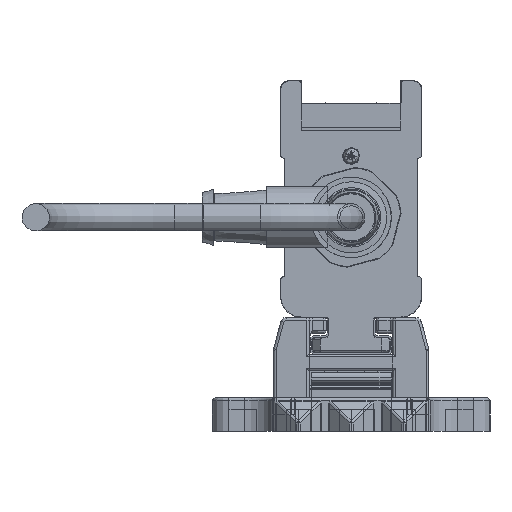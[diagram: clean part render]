
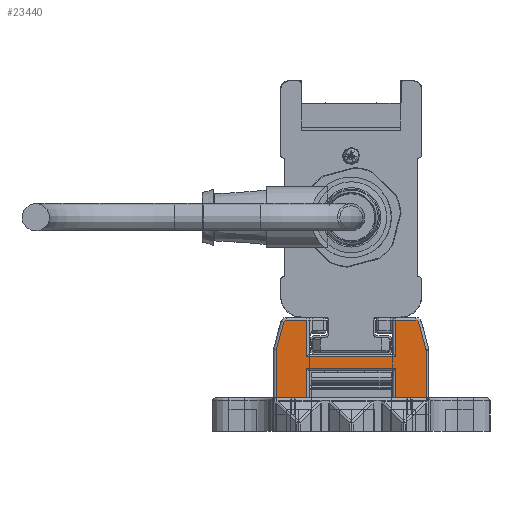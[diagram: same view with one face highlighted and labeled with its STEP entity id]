
A CAD part, left-side view. The second image highlights one B-rep face of the part: STEP entity #23440.
In plain terms, the highlighted planar face has unit normal (-1, 0, 0).
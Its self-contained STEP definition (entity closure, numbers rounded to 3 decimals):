
#23440=ADVANCED_FACE('', (#23450), #23460, .T.);
#165170=AXIS2_PLACEMENT_3D('Ax2Pl3d', #165180, #165190, #165200);
#165410=AXIS2_PLACEMENT_3D('Ax2Pl3d', #165420, #165430, #165440);
#170290=AXIS2_PLACEMENT_3D('Ax2Pl3d', #170300, #170310, #170320);
#175370=AXIS2_PLACEMENT_3D('Ax2Pl3d', #175380, #175390, #175400);
#185050=AXIS2_PLACEMENT_3D('Ax2Pl3d', #185060, #185070, #185080);
#714080=CARTESIAN_POINT('', (-747.669,-4246.345,
331.37));
#165180=CARTESIAN_POINT('HicPkt', (-747.669,-4245.379,
331.111));
#714090=CARTESIAN_POINT('', (-747.669,-4246.379,331.111)
);
#714100=CARTESIAN_POINT('', (-747.669,-4245.037,
336.255));
#714120=CARTESIAN_POINT('', (-747.669,-4245.037,
336.255));
#714150=CARTESIAN_POINT('', (-747.669,-4244.554,
336.625));
#165420=CARTESIAN_POINT('HicPkt', (-747.669,-4244.554,
336.125));
#714370=CARTESIAN_POINT('', (-747.669,-4246.379,322.625)
);
#714380=CARTESIAN_POINT('', (-747.669,-4240.881,322.625)
);
#714390=CARTESIAN_POINT('', (-747.669,-4240.881,322.625)
);
#714470=CARTESIAN_POINT('', (-747.669,-4224.881,322.625)
);
#714480=CARTESIAN_POINT('', (-747.669,-4219.383,322.625)
);
#714490=CARTESIAN_POINT('', (-747.669,-4219.383,322.625)
);
#170300=CARTESIAN_POINT('HicPkt', (-747.669,-4221.209,
336.125));
#716960=CARTESIAN_POINT('', (-747.669,-4220.726,
336.255));
#716970=CARTESIAN_POINT('', (-747.669,-4221.209,
336.625));
#716980=CARTESIAN_POINT('', (-747.669,-4240.881,
330.025));
#716990=CARTESIAN_POINT('', (-747.669,-4224.881,
330.025));
#717000=CARTESIAN_POINT('', (-747.669,-4240.881,
330.025));
#717160=CARTESIAN_POINT('', (-747.669,-4240.881,
328.005));
#717170=CARTESIAN_POINT('', (-747.669,-4224.881,
328.005));
#717180=CARTESIAN_POINT('', (-747.669,-4224.881,
328.005));
#717190=CARTESIAN_POINT('', (-747.669,-4240.881,
328.005));
#717210=CARTESIAN_POINT('', (-747.669,-4224.881,322.625)
);
#717220=CARTESIAN_POINT('', (-747.669,-4224.881,
330.025));
#717230=CARTESIAN_POINT('', (-747.669,-4224.881,
336.625));
#718080=CARTESIAN_POINT('', (-747.669,-4224.881,
336.625));
#718090=CARTESIAN_POINT('', (-747.669,-4220.726,
336.255));
#718100=CARTESIAN_POINT('', (-747.669,-4219.417,
331.37));
#718290=CARTESIAN_POINT('', (-747.669,-4219.383,331.111)
);
#718300=CARTESIAN_POINT('', (-747.669,-4219.383,331.111)
);
#175380=CARTESIAN_POINT('HicPkt', (-747.669,-4220.383,
331.111));
#719110=CARTESIAN_POINT('', (-747.669,-4246.379,331.111)
);
#185060=CARTESIAN_POINT('HicPkt', (-747.669,-4244.554,
336.625));
#720910=CARTESIAN_POINT('', (-747.669,-4240.881,
336.625));
#720920=CARTESIAN_POINT('', (-747.669,-4240.881,
336.625));
#720930=CARTESIAN_POINT('', (-747.669,-4240.881,
336.625));
#828200=CIRCLE('Circle', #165170, 1.);
#828240=CIRCLE('Circle', #165410, 0.5);
#828820=CIRCLE('Circle', #170290, 0.5);
#829350=CIRCLE('Circle', #175370, 1.);
#165190=DIRECTION('Axis', (-1.,0.,
0.));
#165200=DIRECTION('RefDirection', (0.,
0.,-1.));
#1155220=DIRECTION('', (0.,0.259,
0.966));
#165430=DIRECTION('Axis', (-1.,0.,
0.));
#165440=DIRECTION('RefDirection', (0.,
0.,-1.));
#1155330=DIRECTION('', (0.,1.,0.));
#1155370=DIRECTION('', (0.,1.,0.));
#170310=DIRECTION('Axis', (1.,0.,
0.));
#170320=DIRECTION('RefDirection', (0.,
0.,-1.));
#1156560=DIRECTION('', (0.,-1.,0.));
#1156660=DIRECTION('', (0.,1.,0.));
#1156670=DIRECTION('', (0.,0.,1.));
#1156690=DIRECTION('', (0.,0.,-1.));
#1156700=DIRECTION('', (0.,0.,-1.));
#1157130=DIRECTION('', (0.,-1.,0.))
;
#1157140=DIRECTION('', (0.,-0.259,0.966));
#1157230=DIRECTION('', (0.,0.,1.));
#175390=DIRECTION('Axis', (1.,0.,
0.));
#175400=DIRECTION('RefDirection', (0.,
0.,-1.));
#1157600=DIRECTION('', (0.,0.,1.));
#185070=DIRECTION('Axis', (-1.,0.,
0.));
#185080=DIRECTION('RefDirection', (0.,
0.,-1.));
#1158440=DIRECTION('', (0.,1.,0.));
#1158450=DIRECTION('', (0.,0.,1.));
#1233130=EDGE_CURVE('', #1233140, #1233120, #828200, .T.);
#1233190=EDGE_CURVE('', #1233120, #1233170, #1233200, .T.);
#1233260=EDGE_CURVE('', #1233170, #1233250, #828240, .T.);
#1233710=EDGE_CURVE('', #1233700, #1233720, #1233730, .T.);
#1233870=EDGE_CURVE('', #1233860, #1233880, #1233890, .T.);
#1238230=EDGE_CURVE('', #1238240, #1238250, #828820, .T.);
#1238280=EDGE_CURVE('', #1238290, #1238300, #1238310, .T.);
#1238650=EDGE_CURVE('', #1238630, #1238660, #1238670, .T.);
#1238700=EDGE_CURVE('', #1233720, #1238630, #1238710, .T.);
#1238740=EDGE_CURVE('', #1238660, #1233860, #1238750, .T.);
#1238760=EDGE_CURVE('', #1238770, #1238290, #1238780, .T.);
#1240600=EDGE_CURVE('', #1238250, #1238770, #1240610, .T.);
#1240670=EDGE_CURVE('', #1240680, #1238240, #1240690, .T.);
#1241110=EDGE_CURVE('', #1233880, #1241120, #1241130, .T.);
#1241150=EDGE_CURVE('', #1241120, #1240680, #829350, .T.);
#1242860=EDGE_CURVE('', #1233700, #1233140, #1242870, .T.);
#1246670=EDGE_CURVE('', #1233250, #1246680, #1246690, .T.);
#1246700=EDGE_CURVE('', #1238300, #1246680, #1246710, .T.);
#1483650=EDGE_LOOP('Edge_loop', (#1483660,#1483670,#1483680,#1483690,
#1483700,#1483710,#1483720,#1483730,#1483740,#1483750,#1483760,
#1483770,#1483780,#1483790,#1483800,#1483810,#1483820,#1483830));
#23450=FACE_OUTER_BOUND('Face_outer_bound', #1483650, .T.);
#1233200=LINE('Line', #714120, #1704690);
#1233730=LINE('Line', #714380, #1704800);
#1233890=LINE('Line', #714480, #1704840);
#1238310=LINE('Line', #716980, #1706030);
#1238670=LINE('Line', #717170, #1706130);
#1238710=LINE('Line', #717190, #1706140);
#1238750=LINE('Line', #717210, #1706160);
#1238780=LINE('Line', #717220, #1706170);
#1240610=LINE('Line', #718080, #1706600);
#1240690=LINE('Line', #718090, #1706610);
#1241130=LINE('Line', #718290, #1706700);
#1242870=LINE('Line', #719110, #1707070);
#1246690=LINE('Line', #720910, #1707910);
#1246710=LINE('Line', #720930, #1707920);
#1483660=ORIENTED_EDGE('', *, *, #1246670, .T.);
#1483670=ORIENTED_EDGE('', *, *, #1246700, .F.);
#1483680=ORIENTED_EDGE('', *, *, #1238280, .F.);
#1483690=ORIENTED_EDGE('', *, *, #1238760, .F.);
#1483700=ORIENTED_EDGE('', *, *, #1240600, .F.);
#1483710=ORIENTED_EDGE('', *, *, #1238230, .F.);
#1483720=ORIENTED_EDGE('', *, *, #1240670, .F.);
#1483730=ORIENTED_EDGE('', *, *, #1241150, .F.);
#1483740=ORIENTED_EDGE('', *, *, #1241110, .F.);
#1483750=ORIENTED_EDGE('', *, *, #1233870, .F.);
#1483760=ORIENTED_EDGE('', *, *, #1238740, .F.);
#1483770=ORIENTED_EDGE('', *, *, #1238650, .F.);
#1483780=ORIENTED_EDGE('', *, *, #1238700, .F.);
#1483790=ORIENTED_EDGE('', *, *, #1233710, .F.);
#1483800=ORIENTED_EDGE('', *, *, #1242860, .T.);
#1483810=ORIENTED_EDGE('', *, *, #1233130, .T.);
#1483820=ORIENTED_EDGE('', *, *, #1233190, .T.);
#1483830=ORIENTED_EDGE('', *, *, #1233260, .T.);
#23460=PLANE('Plane', #185050);
#1704690=VECTOR('', #1155220, 5.057);
#1704800=VECTOR('', #1155330, 5.498);
#1704840=VECTOR('', #1155370, 5.498);
#1706030=VECTOR('', #1156560, 16.);
#1706130=VECTOR('', #1156660, 16.);
#1706140=VECTOR('', #1156670, 5.38);
#1706160=VECTOR('', #1156690, 5.38);
#1706170=VECTOR('', #1156700, 6.6);
#1706600=VECTOR('', #1157130, 3.672);
#1706610=VECTOR('', #1157140, 5.057);
#1706700=VECTOR('', #1157230, 8.486);
#1707070=VECTOR('', #1157600, 8.486);
#1707910=VECTOR('', #1158440, 3.672);
#1707920=VECTOR('', #1158450, 6.6);
#1233120=VERTEX_POINT('', #714080);
#1233140=VERTEX_POINT('', #714090);
#1233170=VERTEX_POINT('', #714100);
#1233250=VERTEX_POINT('', #714150);
#1233700=VERTEX_POINT('', #714370);
#1233720=VERTEX_POINT('', #714390);
#1233860=VERTEX_POINT('', #714470);
#1233880=VERTEX_POINT('', #714490);
#1238240=VERTEX_POINT('', #716960);
#1238250=VERTEX_POINT('', #716970);
#1238290=VERTEX_POINT('', #716990);
#1238300=VERTEX_POINT('', #717000);
#1238630=VERTEX_POINT('', #717160);
#1238660=VERTEX_POINT('', #717180);
#1238770=VERTEX_POINT('', #717230);
#1240680=VERTEX_POINT('', #718100);
#1241120=VERTEX_POINT('', #718300);
#1246680=VERTEX_POINT('', #720920);
